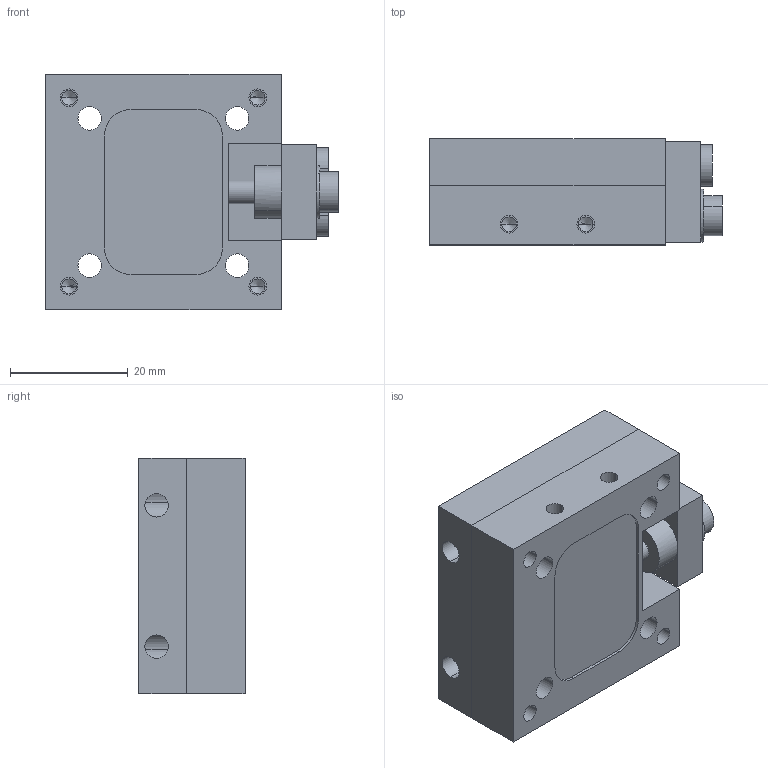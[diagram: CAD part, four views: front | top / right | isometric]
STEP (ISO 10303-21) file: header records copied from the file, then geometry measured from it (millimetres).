
FILE_DESCRIPTION (( 'STEP AP203' ), '1' );
FILE_NAME ('LS-4051FX.STEP', '2012-03-27T08:28:39', ( '' ), ( '' ), 'SwSTEP 2.0', 'SolidWorks 2011', '' );
FILE_SCHEMA (( 'CONFIG_CONTROL_DESIGN' ));
Length unit declared in the file: millimetre
Products named in the file (3): LS-4051FX; LS-4051FX-2; LS-4051FX-1
Assembly tree (2 placements, depth 2):
  LS-4051FX
    LS-4051FX-1
    LS-4051FX-2
Bounding box: 49.7 x 18 x 40 mm (x, y, z)
Volume: 26674.3 mm3; surface area: 13060 mm2
Topology: 2 solids, 3 shells, 211 faces, 502 edges, 305 vertices
Faces by surface type: cylinder 120, plane 57, cone 34
Entity records: 6365 total; most frequent: DIRECTION 1130, CARTESIAN_POINT 1107, ORIENTED_EDGE 936, EDGE_CURVE 468, AXIS2_PLACEMENT_3D 454, VERTEX_POINT 305, EDGE_LOOP 277, CIRCLE 238
